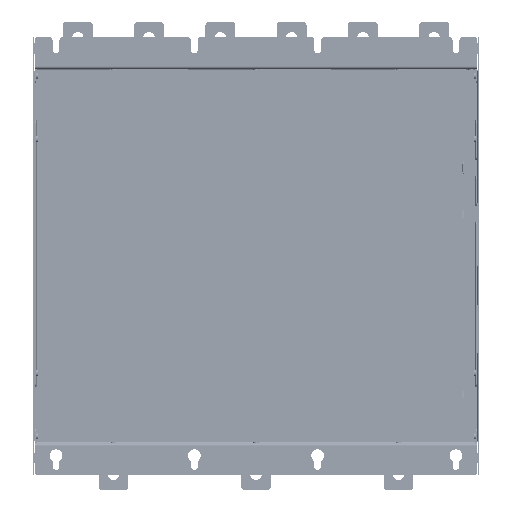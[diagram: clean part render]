
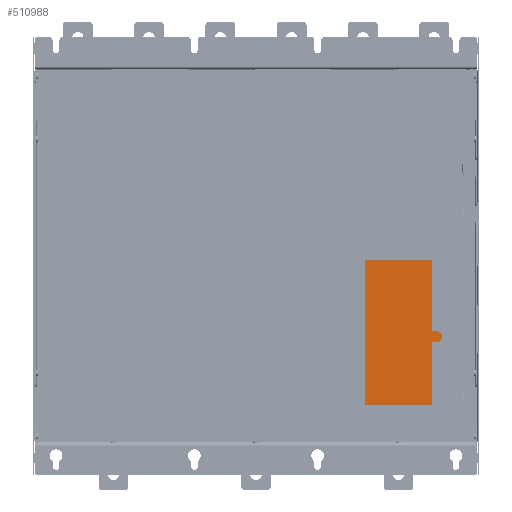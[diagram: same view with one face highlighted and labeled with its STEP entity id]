
A CAD part, front view. The second image highlights one B-rep face of the part: STEP entity #510988.
In plain terms, the highlighted planar face has unit normal (0, -1, 0).
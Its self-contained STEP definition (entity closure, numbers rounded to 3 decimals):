
#90757 = DIRECTION ( 'NONE',  ( -1., 0., 0. ) ) ;
#90761 = DIRECTION ( 'NONE',  ( 0., 1., 0. ) ) ;
#90868 = CARTESIAN_POINT ( 'NONE',  ( 170., 63.6, -1.5 ) ) ;
#107532 = CARTESIAN_POINT ( 'NONE',  ( 102.5, 63.6, -65.5 ) ) ;
#107594 = CARTESIAN_POINT ( 'NONE',  ( 170., 63.6, 3.5 ) ) ;
#107598 = DIRECTION ( 'NONE',  ( -1., 0., 0. ) ) ;
#107614 = CARTESIAN_POINT ( 'NONE',  ( 102.5, 63.6, 71. ) ) ;
#107618 = CARTESIAN_POINT ( 'NONE',  ( 165.5, 63.6, -6.5 ) ) ;
#107622 = DIRECTION ( 'NONE',  ( -1., 0., 0. ) ) ;
#107629 = CARTESIAN_POINT ( 'NONE',  ( 165.5, 63.6, -65.5 ) ) ;
#107633 = DIRECTION ( 'NONE',  ( 0., 0., -1. ) ) ;
#107637 = CARTESIAN_POINT ( 'NONE',  ( 170., 63.6, -1.5 ) ) ;
#107642 = CARTESIAN_POINT ( 'NONE',  ( 102.5, 63.6, -65.5 ) ) ;
#107645 = DIRECTION ( 'NONE',  ( 0., 0., 1. ) ) ;
#107654 = DIRECTION ( 'NONE',  ( 1., 0., 0. ) ) ;
#107661 = CARTESIAN_POINT ( 'NONE',  ( 165.5, 63.6, -65.5 ) ) ;
#107666 = DIRECTION ( 'NONE',  ( 0., 0., -1. ) ) ;
#107678 = DIRECTION ( 'NONE',  ( 0., 1., 0. ) ) ;
#107682 = DIRECTION ( 'NONE',  ( -1., 0., 0. ) ) ;
#107704 = DIRECTION ( 'NONE',  ( 1., 0., 0. ) ) ;
#114872 = ORIENTED_EDGE ( 'NONE', *, *, #545067, .F. ) ;
#114943 = ORIENTED_EDGE ( 'NONE', *, *, #545120, .F. ) ;
#114998 = ORIENTED_EDGE ( 'NONE', *, *, #545101, .F. ) ;
#115034 = ORIENTED_EDGE ( 'NONE', *, *, #545060, .F. ) ;
#115091 = ORIENTED_EDGE ( 'NONE', *, *, #545092, .F. ) ;
#115206 = ORIENTED_EDGE ( 'NONE', *, *, #545046, .F. ) ;
#115223 = ORIENTED_EDGE ( 'NONE', *, *, #545076, .F. ) ;
#118678 = ORIENTED_EDGE ( 'NONE', *, *, #545084, .F. ) ;
#120207 = ORIENTED_EDGE ( 'NONE', *, *, #385097, .F. ) ;
#133089 = PLANE ( 'NONE',  #462535 ) ;
#133741 = DIRECTION ( 'NONE',  ( 0., 0., 1. ) ) ;
#133961 = CARTESIAN_POINT ( 'NONE',  ( 208., 63.6, 249.3 ) ) ;
#134249 = DIRECTION ( 'NONE',  ( 0., 1., 0. ) ) ;
#136291 = VECTOR ( 'NONE', #107598, 1000. ) ;
#136373 = LINE ( 'NONE', #107614, #136441 ) ;
#136378 = LINE ( 'NONE', #107532, #136291 ) ;
#136407 = LINE ( 'NONE', #107618, #136412 ) ;
#136412 = VECTOR ( 'NONE', #107622, 1000. ) ;
#136418 = LINE ( 'NONE', #107629, #136423 ) ;
#136423 = VECTOR ( 'NONE', #107633, 1000. ) ;
#136429 = LINE ( 'NONE', #107642, #136436 ) ;
#136436 = VECTOR ( 'NONE', #107645, 1000. ) ;
#136441 = VECTOR ( 'NONE', #107654, 1000. ) ;
#136453 = LINE ( 'NONE', #107661, #136458 ) ;
#136458 = VECTOR ( 'NONE', #107666, 1000. ) ;
#136477 = LINE ( 'NONE', #107594, #136490 ) ;
#136482 = CIRCLE ( 'NONE', #612176, 5. ) ;
#136490 = VECTOR ( 'NONE', #107704, 1000. ) ;
#269387 = CARTESIAN_POINT ( 'NONE',  ( 165.5, 63.6, 71. ) ) ;
#271164 = CARTESIAN_POINT ( 'NONE',  ( 165.5, 63.6, 3.5 ) ) ;
#271281 = CARTESIAN_POINT ( 'NONE',  ( 102.5, 63.6, -65.5 ) ) ;
#272199 = CARTESIAN_POINT ( 'NONE',  ( 165.5, 63.6, -65.5 ) ) ;
#272411 = CARTESIAN_POINT ( 'NONE',  ( 102.5, 63.6, 71. ) ) ;
#272757 = CARTESIAN_POINT ( 'NONE',  ( 165.5, 63.6, -6.5 ) ) ;
#272764 = CARTESIAN_POINT ( 'NONE',  ( 175., 63.6, -1.5 ) ) ;
#272977 = CARTESIAN_POINT ( 'NONE',  ( 170., 63.6, -6.5 ) ) ;
#273368 = CARTESIAN_POINT ( 'NONE',  ( 170., 63.6, 3.5 ) ) ;
#332521 = CIRCLE ( 'NONE', #431663, 5. ) ;
#347090 = EDGE_LOOP ( 'NONE', ( #118678, #115223, #115206, #115091, #115034, #120207, #114998, #114943, #114872 ) ) ;
#385097 = EDGE_CURVE ( 'NONE', #498953, #501601, #332521, .T. ) ;
#431663 = AXIS2_PLACEMENT_3D ( 'NONE', #90868, #90761, #90757 ) ;
#462535 = AXIS2_PLACEMENT_3D ( 'NONE', #133961, #134249, #133741 ) ;
#498677 = VERTEX_POINT ( 'NONE', #273368 ) ;
#498945 = VERTEX_POINT ( 'NONE', #272757 ) ;
#498953 = VERTEX_POINT ( 'NONE', #272764 ) ;
#499136 = VERTEX_POINT ( 'NONE', #272411 ) ;
#499247 = VERTEX_POINT ( 'NONE', #272199 ) ;
#499838 = VERTEX_POINT ( 'NONE', #271281 ) ;
#499905 = VERTEX_POINT ( 'NONE', #271164 ) ;
#500675 = VERTEX_POINT ( 'NONE', #269387 ) ;
#501601 = VERTEX_POINT ( 'NONE', #272977 ) ;
#510988 = ADVANCED_FACE ( 'NONE', ( #545288 ), #133089, .F. ) ;
#545046 = EDGE_CURVE ( 'NONE', #499247, #499838, #136378, .T. ) ;
#545060 = EDGE_CURVE ( 'NONE', #501601, #498945, #136407, .T. ) ;
#545067 = EDGE_CURVE ( 'NONE', #500675, #499905, #136418, .T. ) ;
#545076 = EDGE_CURVE ( 'NONE', #499838, #499136, #136429, .T. ) ;
#545084 = EDGE_CURVE ( 'NONE', #499136, #500675, #136373, .T. ) ;
#545092 = EDGE_CURVE ( 'NONE', #498945, #499247, #136453, .T. ) ;
#545101 = EDGE_CURVE ( 'NONE', #498677, #498953, #136482, .T. ) ;
#545120 = EDGE_CURVE ( 'NONE', #499905, #498677, #136477, .T. ) ;
#545288 = FACE_OUTER_BOUND ( 'NONE', #347090, .T. ) ;
#612176 = AXIS2_PLACEMENT_3D ( 'NONE', #107637, #107678, #107682 ) ;
